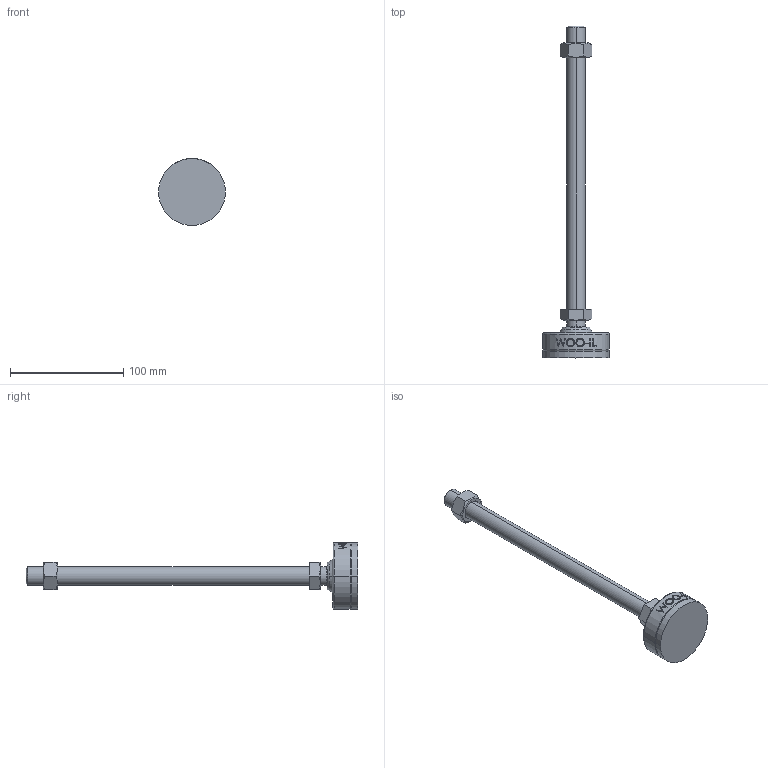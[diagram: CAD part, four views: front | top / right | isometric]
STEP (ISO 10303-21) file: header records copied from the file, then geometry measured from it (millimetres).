
FILE_DESCRIPTION (( 'STEP AP214' ), '1' );
FILE_NAME ('MFNR59-M16-250.step', '2021-02-22T09:07:10', ( '' ), ( '' ), 'SwSTEP 2.0', 'SolidWorks 2019', '' );
FILE_SCHEMA (( 'AUTOMOTIVE_DESIGN' ));
Length unit declared in the file: millimetre
Products named in the file (2): MFNR59-M16-250
Bounding box: 59 x 293 x 59 mm (x, y, z)
Volume: 123571.5 mm3; surface area: 26403.5 mm2
Topology: 2 solids, 2 shells, 105 faces, 245 edges, 156 vertices
Faces by surface type: plane 47, cone 18, cylinder 18, bspline 16, torus 4, sphere 2
Entity records: 4515 total; most frequent: CARTESIAN_POINT 2178, ORIENTED_EDGE 490, DIRECTION 437, EDGE_CURVE 245, AXIS2_PLACEMENT_3D 167, VERTEX_POINT 156, EDGE_LOOP 119, FACE_OUTER_BOUND 105
